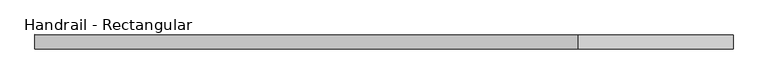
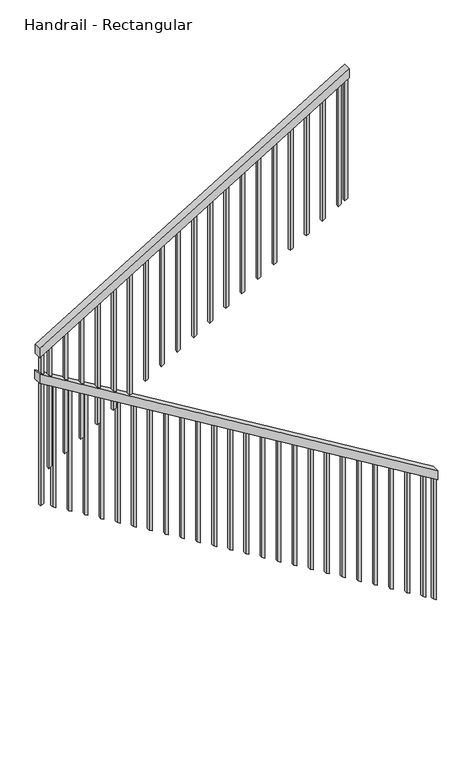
"""IFC4 building model written with IfcOpenShell, lengths in millimetres: railing geometry, Handrail - Rectangular."""

import ifcopenshell
import ifcopenshell.guid

model = None  # the IFC model being written
_history = None  # IfcOwnerHistory: only IFC2X3 demands one
_inside = {}  # id of a spatial element -> (the spatial element, [elements in it])
_under = {}  # id of a project, library or spatial element -> (it, [spatial elements below it])
_declared = {}  # id of a project -> (the project, [libraries it declares])
_typed = {}  # id of a type object -> (the type object, [elements of that type])
_made_of = {}  # id of a material, layer set ... -> (it, [elements and type objects made of it])


def new_model(schema):
    """Start an empty IFC model of exactly this schema.

    Asked for "IFC4X3", IfcOpenShell would pick the latest addendum, in which some entities
    have other attributes; the version numbers below select the first issue.
    IFC2X3 requires an IfcOwnerHistory on every rooted entity: one is made here for all.
    """
    global model, _history
    if schema == "IFC4X3":
        model = ifcopenshell.file(schema_version=(4, 3, 0, 0))
    else:
        model = ifcopenshell.file(schema=schema)
    _inside.clear()
    _under.clear()
    _declared.clear()
    _typed.clear()
    _made_of.clear()
    _history = None
    if model.schema == "IFC2X3":
        org = make("IfcOrganization", Name="unknown")
        user = make(
            "IfcPersonAndOrganization",
            ThePerson=make("IfcPerson", FamilyName="unknown"),
            TheOrganization=org,
        )
        app = make(
            "IfcApplication",
            ApplicationDeveloper=org,
            Version="unknown",
            ApplicationFullName="unknown",
            ApplicationIdentifier="unknown",
        )
        _history = make(
            "IfcOwnerHistory",
            OwningUser=user,
            OwningApplication=app,
            ChangeAction="ADDED",
            CreationDate=0,
        )
    return model


def make(cls, **values):
    """One entity of the class cls with the attributes given. An attribute that is None is left unset."""
    return model.create_entity(
        cls, **{name: value for name, value in values.items() if value is not None}
    )


def rooted(cls, **values):
    """An entity with a GlobalId (a new one), such as an element, a storey or a relation."""
    return make(cls, GlobalId=ifcopenshell.guid.new(), OwnerHistory=_history, **values)


def si_unit(unit_type, name, prefix=None):
    """IfcSIUnit, for example si_unit("LENGTHUNIT", "METRE", prefix="MILLI")."""
    return make("IfcSIUnit", UnitType=unit_type, Prefix=prefix, Name=name)


def assignment(units):
    """IfcUnitAssignment: the units of a project."""
    return None if units is None else make("IfcUnitAssignment", Units=units)


def point(xyz):
    """IfcCartesianPoint."""
    return None if xyz is None else make("IfcCartesianPoint", Coordinates=xyz)


def direction(xyz):
    """IfcDirection."""
    return None if xyz is None else make("IfcDirection", DirectionRatios=xyz)


def frame(location, z_axis=None, x_axis=None):
    """IfcAxis2Placement3D, a coordinate frame: its origin and axes. An axis left out is left unset."""
    return make(
        "IfcAxis2Placement3D",
        Location=point(location),
        Axis=direction(z_axis),
        RefDirection=direction(x_axis),
    )


def origin():
    """The frame at (0, 0, 0) with its axes left unset."""
    return frame((0.0, 0.0, 0.0))


def place(relative_to, where):
    """IfcLocalPlacement: puts the frame where relative to a parent placement (None: the world)."""
    return make(
        "IfcLocalPlacement", PlacementRelTo=relative_to, RelativePlacement=where
    )


def context(
    kind, dimensions, precision=None, world=None, true_north=None, identifier=None
):
    """IfcGeometricRepresentationContext, for example the 3D "Model" context."""
    return make(
        "IfcGeometricRepresentationContext",
        ContextIdentifier=identifier,
        ContextType=kind,
        CoordinateSpaceDimension=dimensions,
        Precision=precision,
        WorldCoordinateSystem=world,
        TrueNorth=true_north,
    )


def project(units=None, contexts=None):
    """IfcProject with its units and contexts."""
    return rooted(
        "IfcProject",
        Name="project",
        RepresentationContexts=contexts,
        UnitsInContext=assignment(units),
    )


def spatial(cls, under=None, at=None, **own):
    """A site, building, storey or space (cls), placed at a placement, below another one or the project."""
    s = rooted(cls, ObjectPlacement=at, **own)
    if under is not None:
        _under.setdefault(under.id(), (under, []))[1].append(s)
    return s


def polyline(points):
    """IfcPolyline through the points."""
    return make("IfcPolyline", Points=[point(p) for p in points])


def outline(outer, holes=None, kind="AREA"):
    """IfcArbitraryClosedProfileDef: a profile drawn as a closed curve; with holes, ...WithVoids."""
    if holes is None:
        return make("IfcArbitraryClosedProfileDef", ProfileType=kind, OuterCurve=outer)
    return make(
        "IfcArbitraryProfileDefWithVoids",
        ProfileType=kind,
        OuterCurve=outer,
        InnerCurves=holes,
    )


def extrude(swept, where, along, depth):
    """IfcExtrudedAreaSolid: the profile swept, set in the frame where, extruded along a direction by depth."""
    return make(
        "IfcExtrudedAreaSolid",
        SweptArea=swept,
        Position=where,
        ExtrudedDirection=direction(along),
        Depth=depth,
    )


def shape(context_of_items, identifier, shape_type, items):
    """IfcShapeRepresentation: the items that make up one representation, for example the "Body"."""
    return make(
        "IfcShapeRepresentation",
        ContextOfItems=context_of_items,
        RepresentationIdentifier=identifier,
        RepresentationType=shape_type,
        Items=items,
    )


def source(mapping_origin, context_of_items, identifier, shape_type, items):
    """IfcRepresentationMap: a shape defined once, which mapped items show again and again."""
    return make(
        "IfcRepresentationMap",
        MappingOrigin=mapping_origin,
        MappedRepresentation=shape(context_of_items, identifier, shape_type, items),
    )


def transform(
    local_origin,
    x_axis=None,
    y_axis=None,
    z_axis=None,
    scale=None,
    scale2=None,
    scale3=None,
    uniform=True,
):
    """IfcCartesianTransformationOperator3D, or its non-uniform kind. x_axis, y_axis, z_axis: its Axis1, 2, 3."""
    if uniform:
        return make(
            "IfcCartesianTransformationOperator3D",
            Axis1=direction(x_axis),
            Axis2=direction(y_axis),
            LocalOrigin=point(local_origin),
            Scale=scale,
            Axis3=direction(z_axis),
        )
    return make(
        "IfcCartesianTransformationOperator3DnonUniform",
        Axis1=direction(x_axis),
        Axis2=direction(y_axis),
        LocalOrigin=point(local_origin),
        Scale=scale,
        Axis3=direction(z_axis),
        Scale2=scale2,
        Scale3=scale3,
    )


def mapped(mapping_source, mapping_target):
    """IfcMappedItem: shows the shape of a source again, moved by a transform."""
    return make(
        "IfcMappedItem", MappingSource=mapping_source, MappingTarget=mapping_target
    )


def made_of(thing, what):
    """Note that an element or type object is made of a material, layer set ...; save() writes the relation."""
    if what is not None:
        _made_of.setdefault(what.id(), (what, []))[1].append(thing)
    return thing


def element(
    cls,
    number,
    at=None,
    inside=None,
    cuts=None,
    type_object=None,
    material=None,
    context=None,
    identifier="Body",
    shape_type=None,
    held_by="IfcProductDefinitionShape",
    body=None,
    shapes=None,
    **own,
):
    """One element of the class cls, such as IfcWall. Its Tag is "e" and its number.

    at: its placement. inside: the storey or other place that contains it. cuts: it is an
    opening in that element (IfcRelVoidsElement). A single representation is given by context,
    identifier, shape_type and body (its items); several are given by shapes. held_by: the class
    of the entity that holds the representations. save() writes the other relations.
    """
    e = rooted(cls, Tag="e%d" % number, ObjectPlacement=at, **own)
    if body is not None:
        shapes = [shape(context, identifier, shape_type, body)]
    if shapes is not None:
        e.Representation = make(held_by, Representations=shapes)
    if inside is not None:
        _inside.setdefault(inside.id(), (inside, []))[1].append(e)
    if cuts is not None:
        rooted(
            "IfcRelVoidsElement", RelatingBuildingElement=cuts, RelatedOpeningElement=e
        )
    if type_object is not None:
        _typed.setdefault(type_object.id(), (type_object, []))[1].append(e)
    return made_of(e, material)


def aggregate(whole, parts):
    """IfcRelAggregates: a whole, such as a stair, and the parts it consists of."""
    return rooted("IfcRelAggregates", RelatingObject=whole, RelatedObjects=parts)


def save(model, path):
    """Write the relations noted so far, then the file.

    IfcRelAggregates (storeys below a building ...), IfcRelContainedInSpatialStructure (elements
    in a storey), IfcRelDefinesByType, IfcRelAssociatesMaterial and IfcRelDeclares: one each for
    every whole, place, type object, material and project.
    """
    for whole, parts in _under.values():
        aggregate(whole, parts)
    for where, things in _inside.values():
        rooted(
            "IfcRelContainedInSpatialStructure",
            RelatedElements=things,
            RelatingStructure=where,
        )
    for kind, things in _typed.values():
        rooted("IfcRelDefinesByType", RelatedObjects=things, RelatingType=kind)
    for what, things in _made_of.values():
        rooted("IfcRelAssociatesMaterial", RelatedObjects=things, RelatingMaterial=what)
    for by, libraries in _declared.values():
        rooted("IfcRelDeclares", RelatingContext=by, RelatedDefinitions=libraries)
    model.write(path)


def handrail_rectangular_08b6a308(model_context):
    return source(origin(), model_context, "Body", "SweptSolid", [
        extrude(outline(polyline([(1024.3318731, -9134.3892301), (1083.7333333, -9134.3892301), (2607.7333333, -11648.9892301), (2548.3318731, -11648.9892301), (1024.3318731, -9134.3892301)])), frame((0.0, 2201.3964419, 0.0), z_axis=(0.0, 1.0, 0.0), x_axis=(0.0, 0.0, 1.0)), (0.0, 0.0, 1.0), 50.8),
        extrude(outline(polyline([(2777.0666667, -11648.9892301), (2717.6652064, -11648.9892301), (3902.9985397, -9693.1892301), (3962.4, -9693.1892301), (2777.0666667, -11648.9892301)])), frame((0.0, 2200.1866949, 0.0), z_axis=(0.0, 1.0, 0.0), x_axis=(0.0, 0.0, 1.0)), (0.0, 0.0, 1.0), 50.8),
        extrude(outline(polyline([(3866.4379337, -9753.5142301), (3054.2205726, -9753.5142301), (3065.7660271, -9734.4642301), (3877.9833882, -9734.4642301), (3866.4379337, -9753.5142301)])), frame((0.0, 2216.0616949, 0.0), z_axis=(0.0, 1.0, 0.0), x_axis=(0.0, 0.0, 1.0)), (0.0, 0.0, 1.0), 19.05),
        extrude(outline(polyline([(3804.8621761, -9855.1142301), (2992.644815, -9855.1142301), (3004.1902695, -9836.0642301), (3816.4076307, -9836.0642301), (3804.8621761, -9855.1142301)])), frame((0.0, 2216.0616949, 0.0), z_axis=(0.0, 1.0, 0.0), x_axis=(0.0, 0.0, 1.0)), (0.0, 0.0, 1.0), 19.05),
        extrude(outline(polyline([(3743.2864185, -9956.7142301), (2931.0690574, -9956.7142301), (2942.614512, -9937.6642301), (3754.8318731, -9937.6642301), (3743.2864185, -9956.7142301)])), frame((0.0, 2216.0616949, 0.0), z_axis=(0.0, 1.0, 0.0), x_axis=(0.0, 0.0, 1.0)), (0.0, 0.0, 1.0), 19.05),
        extrude(outline(polyline([(3681.710661, -10058.3142301), (2869.4932998, -10058.3142301), (2881.0387544, -10039.2642301), (3693.2561155, -10039.2642301), (3681.710661, -10058.3142301)])), frame((0.0, 2216.0616949, 0.0), z_axis=(0.0, 1.0, 0.0), x_axis=(0.0, 0.0, 1.0)), (0.0, 0.0, 1.0), 19.05),
        extrude(outline(polyline([(3620.1349034, -10159.9142301), (2807.9175423, -10159.9142301), (2819.4629968, -10140.8642301), (3631.6803579, -10140.8642301), (3620.1349034, -10159.9142301)])), frame((0.0, 2216.0616949, 0.0), z_axis=(0.0, 1.0, 0.0), x_axis=(0.0, 0.0, 1.0)), (0.0, 0.0, 1.0), 19.05),
        extrude(outline(polyline([(3558.5591458, -10261.5142301), (2746.3417847, -10261.5142301), (2757.8872392, -10242.4642301), (3570.1046004, -10242.4642301), (3558.5591458, -10261.5142301)])), frame((0.0, 2216.0616949, 0.0), z_axis=(0.0, 1.0, 0.0), x_axis=(0.0, 0.0, 1.0)), (0.0, 0.0, 1.0), 19.05),
        extrude(outline(polyline([(3496.9833882, -10363.1142301), (2684.7660271, -10363.1142301), (2696.3114817, -10344.0642301), (3508.5288428, -10344.0642301), (3496.9833882, -10363.1142301)])), frame((0.0, 2216.0616949, 0.0), z_axis=(0.0, 1.0, 0.0), x_axis=(0.0, 0.0, 1.0)), (0.0, 0.0, 1.0), 19.05),
        extrude(outline(polyline([(3435.4076307, -10464.7142301), (2623.1902695, -10464.7142301), (2634.7357241, -10445.6642301), (3446.9530852, -10445.6642301), (3435.4076307, -10464.7142301)])), frame((0.0, 2216.0616949, 0.0), z_axis=(0.0, 1.0, 0.0), x_axis=(0.0, 0.0, 1.0)), (0.0, 0.0, 1.0), 19.05),
        extrude(outline(polyline([(3373.8318731, -10566.3142301), (2561.614512, -10566.3142301), (2573.1599665, -10547.2642301), (3385.3773276, -10547.2642301), (3373.8318731, -10566.3142301)])), frame((0.0, 2216.0616949, 0.0), z_axis=(0.0, 1.0, 0.0), x_axis=(0.0, 0.0, 1.0)), (0.0, 0.0, 1.0), 19.05),
        extrude(outline(polyline([(3312.2561155, -10667.9142301), (2500.0387544, -10667.9142301), (2511.5842089, -10648.8642301), (3323.80157, -10648.8642301), (3312.2561155, -10667.9142301)])), frame((0.0, 2216.0616949, 0.0), z_axis=(0.0, 1.0, 0.0), x_axis=(0.0, 0.0, 1.0)), (0.0, 0.0, 1.0), 19.05),
        extrude(outline(polyline([(3250.6803579, -10769.5142301), (2438.4629968, -10769.5142301), (2450.0084514, -10750.4642301), (3262.2258125, -10750.4642301), (3250.6803579, -10769.5142301)])), frame((0.0, 2216.0616949, 0.0), z_axis=(0.0, 1.0, 0.0), x_axis=(0.0, 0.0, 1.0)), (0.0, 0.0, 1.0), 19.05),
        extrude(outline(polyline([(3189.1046004, -10871.1142301), (2376.8872392, -10871.1142301), (2388.4326938, -10852.0642301), (3200.6500549, -10852.0642301), (3189.1046004, -10871.1142301)])), frame((0.0, 2216.0616949, 0.0), z_axis=(0.0, 1.0, 0.0), x_axis=(0.0, 0.0, 1.0)), (0.0, 0.0, 1.0), 19.05),
        extrude(outline(polyline([(3127.5288428, -10972.7142301), (2315.3114817, -10972.7142301), (2326.8569362, -10953.6642301), (3139.0742973, -10953.6642301), (3127.5288428, -10972.7142301)])), frame((0.0, 2216.0616949, 0.0), z_axis=(0.0, 1.0, 0.0), x_axis=(0.0, 0.0, 1.0)), (0.0, 0.0, 1.0), 19.05),
        extrude(outline(polyline([(3065.9530852, -11074.3142301), (2253.7357241, -11074.3142301), (2265.2811786, -11055.2642301), (3077.4985397, -11055.2642301), (3065.9530852, -11074.3142301)])), frame((0.0, 2216.0616949, 0.0), z_axis=(0.0, 1.0, 0.0), x_axis=(0.0, 0.0, 1.0)), (0.0, 0.0, 1.0), 19.05),
        extrude(outline(polyline([(3004.3773276, -11175.9142301), (2192.1599665, -11175.9142301), (2203.7054211, -11156.8642301), (3015.9227822, -11156.8642301), (3004.3773276, -11175.9142301)])), frame((0.0, 2216.0616949, 0.0), z_axis=(0.0, 1.0, 0.0), x_axis=(0.0, 0.0, 1.0)), (0.0, 0.0, 1.0), 19.05),
        extrude(outline(polyline([(2942.80157, -11277.5142301), (2130.5842089, -11277.5142301), (2142.1296635, -11258.4642301), (2954.3470246, -11258.4642301), (2942.80157, -11277.5142301)])), frame((0.0, 2216.0616949, 0.0), z_axis=(0.0, 1.0, 0.0), x_axis=(0.0, 0.0, 1.0)), (0.0, 0.0, 1.0), 19.05),
        extrude(outline(polyline([(2881.2258125, -11379.1142301), (2069.0084514, -11379.1142301), (2080.5539059, -11360.0642301), (2892.771267, -11360.0642301), (2881.2258125, -11379.1142301)])), frame((0.0, 2216.0616949, 0.0), z_axis=(0.0, 1.0, 0.0), x_axis=(0.0, 0.0, 1.0)), (0.0, 0.0, 1.0), 19.05),
        extrude(outline(polyline([(2819.6500549, -11480.7142301), (2007.4326938, -11480.7142301), (2018.9781483, -11461.6642301), (2831.1955094, -11461.6642301), (2819.6500549, -11480.7142301)])), frame((0.0, 2216.0616949, 0.0), z_axis=(0.0, 1.0, 0.0), x_axis=(0.0, 0.0, 1.0)), (0.0, 0.0, 1.0), 19.05),
        extrude(outline(polyline([(2758.0742973, -11582.3142301), (1945.8569362, -11582.3142301), (1957.4023907, -11563.2642301), (2769.6197519, -11563.2642301), (2758.0742973, -11582.3142301)])), frame((0.0, 2216.0616949, 0.0), z_axis=(0.0, 1.0, 0.0), x_axis=(0.0, 0.0, 1.0)), (0.0, 0.0, 1.0), 19.05),
        extrude(outline(polyline([(2492.5288428, -11556.9142301), (1680.3114817, -11556.9142301), (1668.7660271, -11537.8642301), (2480.9833882, -11537.8642301), (2492.5288428, -11556.9142301)])), frame((0.0, 2217.2714419, 0.0), z_axis=(0.0, 1.0, 0.0), x_axis=(0.0, 0.0, 1.0)), (0.0, 0.0, 1.0), 19.05),
        extrude(outline(polyline([(2430.9530852, -11455.3142301), (1618.7357241, -11455.3142301), (1607.1902695, -11436.2642301), (2419.4076307, -11436.2642301), (2430.9530852, -11455.3142301)])), frame((0.0, 2217.2714419, 0.0), z_axis=(0.0, 1.0, 0.0), x_axis=(0.0, 0.0, 1.0)), (0.0, 0.0, 1.0), 19.05),
        extrude(outline(polyline([(2369.3773276, -11353.7142301), (1557.1599665, -11353.7142301), (1545.614512, -11334.6642301), (2357.8318731, -11334.6642301), (2369.3773276, -11353.7142301)])), frame((0.0, 2217.2714419, 0.0), z_axis=(0.0, 1.0, 0.0), x_axis=(0.0, 0.0, 1.0)), (0.0, 0.0, 1.0), 19.05),
        extrude(outline(polyline([(2307.80157, -11252.1142301), (1495.5842089, -11252.1142301), (1484.0387544, -11233.0642301), (2296.2561155, -11233.0642301), (2307.80157, -11252.1142301)])), frame((0.0, 2217.2714419, 0.0), z_axis=(0.0, 1.0, 0.0), x_axis=(0.0, 0.0, 1.0)), (0.0, 0.0, 1.0), 19.05),
        extrude(outline(polyline([(2246.2258125, -11150.5142301), (1434.0084514, -11150.5142301), (1422.4629968, -11131.4642301), (2234.6803579, -11131.4642301), (2246.2258125, -11150.5142301)])), frame((0.0, 2217.2714419, 0.0), z_axis=(0.0, 1.0, 0.0), x_axis=(0.0, 0.0, 1.0)), (0.0, 0.0, 1.0), 19.05),
        extrude(outline(polyline([(2184.6500549, -11048.9142301), (1372.4326938, -11048.9142301), (1360.8872392, -11029.8642301), (2173.1046004, -11029.8642301), (2184.6500549, -11048.9142301)])), frame((0.0, 2217.2714419, 0.0), z_axis=(0.0, 1.0, 0.0), x_axis=(0.0, 0.0, 1.0)), (0.0, 0.0, 1.0), 19.05),
        extrude(outline(polyline([(2123.0742973, -10947.3142301), (1310.8569362, -10947.3142301), (1299.3114817, -10928.2642301), (2111.5288428, -10928.2642301), (2123.0742973, -10947.3142301)])), frame((0.0, 2217.2714419, 0.0), z_axis=(0.0, 1.0, 0.0), x_axis=(0.0, 0.0, 1.0)), (0.0, 0.0, 1.0), 19.05),
        extrude(outline(polyline([(2061.4985397, -10845.7142301), (1249.2811786, -10845.7142301), (1237.7357241, -10826.6642301), (2049.9530852, -10826.6642301), (2061.4985397, -10845.7142301)])), frame((0.0, 2217.2714419, 0.0), z_axis=(0.0, 1.0, 0.0), x_axis=(0.0, 0.0, 1.0)), (0.0, 0.0, 1.0), 19.05),
        extrude(outline(polyline([(1999.9227822, -10744.1142301), (1187.7054211, -10744.1142301), (1176.1599665, -10725.0642301), (1988.3773276, -10725.0642301), (1999.9227822, -10744.1142301)])), frame((0.0, 2217.2714419, 0.0), z_axis=(0.0, 1.0, 0.0), x_axis=(0.0, 0.0, 1.0)), (0.0, 0.0, 1.0), 19.05),
        extrude(outline(polyline([(1938.3470246, -10642.5142301), (1126.1296635, -10642.5142301), (1114.5842089, -10623.4642301), (1926.80157, -10623.4642301), (1938.3470246, -10642.5142301)])), frame((0.0, 2217.2714419, 0.0), z_axis=(0.0, 1.0, 0.0), x_axis=(0.0, 0.0, 1.0)), (0.0, 0.0, 1.0), 19.05),
        extrude(outline(polyline([(1876.771267, -10540.9142301), (1064.5539059, -10540.9142301), (1053.0084514, -10521.8642301), (1865.2258125, -10521.8642301), (1876.771267, -10540.9142301)])), frame((0.0, 2217.2714419, 0.0), z_axis=(0.0, 1.0, 0.0), x_axis=(0.0, 0.0, 1.0)), (0.0, 0.0, 1.0), 19.05),
        extrude(outline(polyline([(1815.1955094, -10439.3142301), (1002.9781483, -10439.3142301), (991.4326938, -10420.2642301), (1803.6500549, -10420.2642301), (1815.1955094, -10439.3142301)])), frame((0.0, 2217.2714419, 0.0), z_axis=(0.0, 1.0, 0.0), x_axis=(0.0, 0.0, 1.0)), (0.0, 0.0, 1.0), 19.05),
        extrude(outline(polyline([(1753.6197519, -10337.7142301), (941.4023907, -10337.7142301), (929.8569362, -10318.6642301), (1742.0742973, -10318.6642301), (1753.6197519, -10337.7142301)])), frame((0.0, 2217.2714419, 0.0), z_axis=(0.0, 1.0, 0.0), x_axis=(0.0, 0.0, 1.0)), (0.0, 0.0, 1.0), 19.05),
        extrude(outline(polyline([(1692.0439943, -10236.1142301), (879.8266332, -10236.1142301), (868.2811786, -10217.0642301), (1680.4985397, -10217.0642301), (1692.0439943, -10236.1142301)])), frame((0.0, 2217.2714419, 0.0), z_axis=(0.0, 1.0, 0.0), x_axis=(0.0, 0.0, 1.0)), (0.0, 0.0, 1.0), 19.05),
        extrude(outline(polyline([(1630.4682367, -10134.5142301), (818.2508756, -10134.5142301), (806.7054211, -10115.4642301), (1618.9227822, -10115.4642301), (1630.4682367, -10134.5142301)])), frame((0.0, 2217.2714419, 0.0), z_axis=(0.0, 1.0, 0.0), x_axis=(0.0, 0.0, 1.0)), (0.0, 0.0, 1.0), 19.05),
        extrude(outline(polyline([(1568.8924791, -10032.9142301), (756.675118, -10032.9142301), (745.1296635, -10013.8642301), (1557.3470246, -10013.8642301), (1568.8924791, -10032.9142301)])), frame((0.0, 2217.2714419, 0.0), z_axis=(0.0, 1.0, 0.0), x_axis=(0.0, 0.0, 1.0)), (0.0, 0.0, 1.0), 19.05),
        extrude(outline(polyline([(1507.3167216, -9931.3142301), (695.0993604, -9931.3142301), (683.5539059, -9912.2642301), (1495.771267, -9912.2642301), (1507.3167216, -9931.3142301)])), frame((0.0, 2217.2714419, 0.0), z_axis=(0.0, 1.0, 0.0), x_axis=(0.0, 0.0, 1.0)), (0.0, 0.0, 1.0), 19.05),
        extrude(outline(polyline([(1445.740964, -9829.7142301), (633.5236029, -9829.7142301), (621.9781483, -9810.6642301), (1434.1955094, -9810.6642301), (1445.740964, -9829.7142301)])), frame((0.0, 2217.2714419, 0.0), z_axis=(0.0, 1.0, 0.0), x_axis=(0.0, 0.0, 1.0)), (0.0, 0.0, 1.0), 19.05),
        extrude(outline(polyline([(1384.1652064, -9728.1142301), (571.9478453, -9728.1142301), (560.4023907, -9709.0642301), (1372.6197519, -9709.0642301), (1384.1652064, -9728.1142301)])), frame((0.0, 2217.2714419, 0.0), z_axis=(0.0, 1.0, 0.0), x_axis=(0.0, 0.0, 1.0)), (0.0, 0.0, 1.0), 19.05),
        extrude(outline(polyline([(1322.5894488, -9626.5142301), (510.3720877, -9626.5142301), (498.8266332, -9607.4642301), (1311.0439943, -9607.4642301), (1322.5894488, -9626.5142301)])), frame((0.0, 2217.2714419, 0.0), z_axis=(0.0, 1.0, 0.0), x_axis=(0.0, 0.0, 1.0)), (0.0, 0.0, 1.0), 19.05),
        extrude(outline(polyline([(1261.0136913, -9524.9142301), (448.7963301, -9524.9142301), (437.2508756, -9505.8642301), (1249.4682367, -9505.8642301), (1261.0136913, -9524.9142301)])), frame((0.0, 2217.2714419, 0.0), z_axis=(0.0, 1.0, 0.0), x_axis=(0.0, 0.0, 1.0)), (0.0, 0.0, 1.0), 19.05),
        extrude(outline(polyline([(1199.4379337, -9423.3142301), (387.2205726, -9423.3142301), (375.675118, -9404.2642301), (1187.8924791, -9404.2642301), (1199.4379337, -9423.3142301)])), frame((0.0, 2217.2714419, 0.0), z_axis=(0.0, 1.0, 0.0), x_axis=(0.0, 0.0, 1.0)), (0.0, 0.0, 1.0), 19.05),
        extrude(outline(polyline([(1137.8621761, -9321.7142301), (325.644815, -9321.7142301), (314.0993604, -9302.6642301), (1126.3167216, -9302.6642301), (1137.8621761, -9321.7142301)])), frame((0.0, 2217.2714419, 0.0), z_axis=(0.0, 1.0, 0.0), x_axis=(0.0, 0.0, 1.0)), (0.0, 0.0, 1.0), 19.05),
        extrude(outline(polyline([(1076.2864185, -9220.1142301), (264.0690574, -9220.1142301), (252.5236029, -9201.0642301), (1064.740964, -9201.0642301), (1076.2864185, -9220.1142301)])), frame((0.0, 2217.2714419, 0.0), z_axis=(0.0, 1.0, 0.0), x_axis=(0.0, 0.0, 1.0)), (0.0, 0.0, 1.0), 19.05),
        extrude(outline(polyline([(2727.2864185, -11633.1142301), (1714.9478453, -11633.1142301), (1726.4932998, -11614.0642301), (2738.8318731, -11614.0642301), (2727.2864185, -11633.1142301)])), frame((0.0, 2216.0616949, 0.0), z_axis=(0.0, 1.0, 0.0), x_axis=(0.0, 0.0, 1.0)), (0.0, 0.0, 1.0), 19.05),
        extrude(outline(polyline([(2236.3214419, 2556.9333333), (2236.3214419, 1714.9478453), (2217.2714419, 1726.4932998), (2217.2714419, 2556.9333333), (2236.3214419, 2556.9333333)])), frame((-11633.1142301, 0.0, 0.0), z_axis=(1.0, 0.0, 0.0), x_axis=(0.0, 1.0, 0.0)), (0.0, 0.0, 1.0), 19.05),
        extrude(outline(polyline([(3891.4530852, -9712.2392301), (3079.2357241, -9712.2392301), (3090.7811786, -9693.1892301), (3902.9985397, -9693.1892301), (3891.4530852, -9712.2392301)])), frame((0.0, 2216.0616949, 0.0), z_axis=(0.0, 1.0, 0.0), x_axis=(0.0, 0.0, 1.0)), (0.0, 0.0, 1.0), 19.05),
        extrude(outline(polyline([(1035.8773276, -9153.4392301), (223.6599665, -9153.4392301), (212.114512, -9134.3892301), (1024.3318731, -9134.3892301), (1035.8773276, -9153.4392301)])), frame((0.0, 2217.2714419, 0.0), z_axis=(0.0, 1.0, 0.0), x_axis=(0.0, 0.0, 1.0)), (0.0, 0.0, 1.0), 19.05),
    ])


if __name__ == "__main__":
    model = new_model("IFC4")
    model_context = context("Model", 3, world=origin())
    ifc_project = project(units=[si_unit("LENGTHUNIT", "METRE", prefix="MILLI")], contexts=[model_context])
    site = spatial("IfcSite", under=ifc_project)
    building = spatial("IfcBuilding", under=site)
    placement = place(None, origin())
    handrail_rectangular_shape = handrail_rectangular_08b6a308(model_context)
    element("IfcRailing", 1, ObjectType="Handrail - Rectangular", at=placement, inside=building, context=model_context, shape_type="MappedRepresentation", body=[
        mapped(handrail_rectangular_shape, transform((0.0, 0.0, 0.0), x_axis=(1.0, 0.0, 0.0), y_axis=(0.0, 1.0, 0.0), z_axis=(0.0, 0.0, 1.0))),
    ])
    save(model, "model.ifc")
